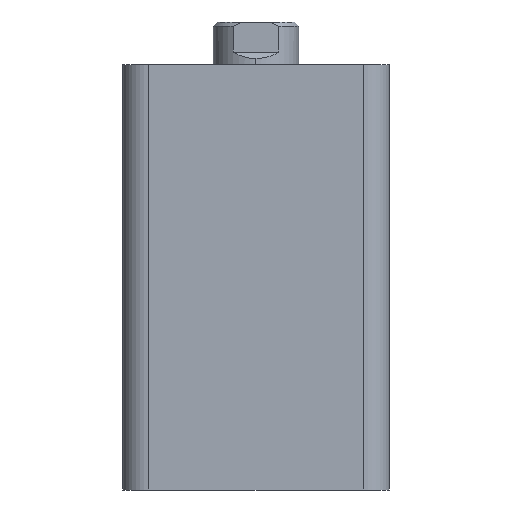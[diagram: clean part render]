
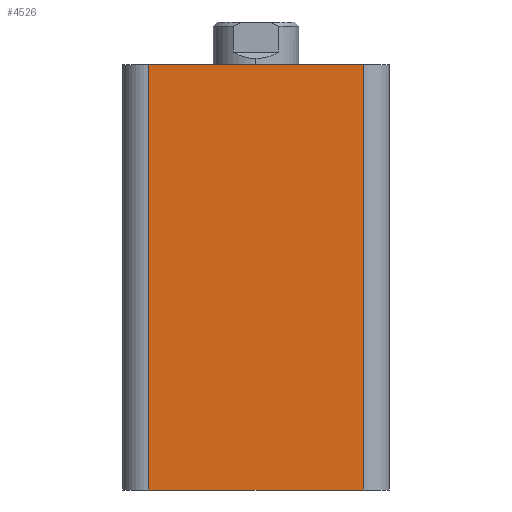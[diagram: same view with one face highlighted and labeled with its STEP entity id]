
A CAD part, left-side view. The second image highlights one B-rep face of the part: STEP entity #4526.
In plain terms, the highlighted planar face has unit normal (-1, 0, 0).
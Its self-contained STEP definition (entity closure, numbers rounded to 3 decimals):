
#87 = ORIENTED_EDGE ( 'NONE', *, *, #2277, .T. ) ;
#123 = ORIENTED_EDGE ( 'NONE', *, *, #647, .F. ) ;
#127 = ORIENTED_EDGE ( 'NONE', *, *, #2276, .T. ) ;
#131 = ORIENTED_EDGE ( 'NONE', *, *, #2263, .T. ) ;
#647 = EDGE_CURVE ( 'NONE', #4050, #3849, #3194, .T. ) ;
#1104 = DIRECTION ( 'NONE',  ( 0., -1., 0. ) ) ;
#1106 = CARTESIAN_POINT ( 'NONE',  ( -31., 31., 0. ) ) ;
#1139 = CARTESIAN_POINT ( 'NONE',  ( -31., -25., 99. ) ) ;
#1140 = DIRECTION ( 'NONE',  ( 0., 0., 1. ) ) ;
#1141 = CARTESIAN_POINT ( 'NONE',  ( -31., 25., 99. ) ) ;
#1142 = DIRECTION ( 'NONE',  ( 0., 0., -1. ) ) ;
#1264 = LINE ( 'NONE', #1139, #2970 ) ;
#1967 = FACE_OUTER_BOUND ( 'NONE', #3302, .T. ) ;
#2263 = EDGE_CURVE ( 'NONE', #4080, #3746, #2947, .T. ) ;
#2276 = EDGE_CURVE ( 'NONE', #3746, #3849, #1264, .T. ) ;
#2277 = EDGE_CURVE ( 'NONE', #4050, #4080, #2942, .T. ) ;
#2388 = CARTESIAN_POINT ( 'NONE',  ( -31., 31., 99. ) ) ;
#2390 = DIRECTION ( 'NONE',  ( 0., -1., 0. ) ) ;
#2938 = VECTOR ( 'NONE', #1142, 1000. ) ;
#2942 = LINE ( 'NONE', #1141, #2938 ) ;
#2946 = VECTOR ( 'NONE', #1104, 1000. ) ;
#2947 = LINE ( 'NONE', #1106, #2946 ) ;
#2970 = VECTOR ( 'NONE', #1140, 1000. ) ;
#3185 = VECTOR ( 'NONE', #2390, 1000. ) ;
#3194 = LINE ( 'NONE', #2388, #3185 ) ;
#3302 = EDGE_LOOP ( 'NONE', ( #131, #127, #123, #87 ) ) ;
#3434 = AXIS2_PLACEMENT_3D ( 'NONE', #4888, #4893, #4894 ) ;
#3746 = VERTEX_POINT ( 'NONE', #4728 ) ;
#3849 = VERTEX_POINT ( 'NONE', #4751 ) ;
#4050 = VERTEX_POINT ( 'NONE', #4811 ) ;
#4080 = VERTEX_POINT ( 'NONE', #4824 ) ;
#4526 = ADVANCED_FACE ( 'NONE', ( #1967 ), #4892, .F. ) ;
#4728 = CARTESIAN_POINT ( 'NONE',  ( -31., -25., 0. ) ) ;
#4751 = CARTESIAN_POINT ( 'NONE',  ( -31., -25., 99. ) ) ;
#4811 = CARTESIAN_POINT ( 'NONE',  ( -31., 25., 99. ) ) ;
#4824 = CARTESIAN_POINT ( 'NONE',  ( -31., 25., 0. ) ) ;
#4888 = CARTESIAN_POINT ( 'NONE',  ( -31., 31., 99. ) ) ;
#4892 = PLANE ( 'NONE',  #3434 ) ;
#4893 = DIRECTION ( 'NONE',  ( 1., 0., 0. ) ) ;
#4894 = DIRECTION ( 'NONE',  ( 0., 0., -1. ) ) ;
